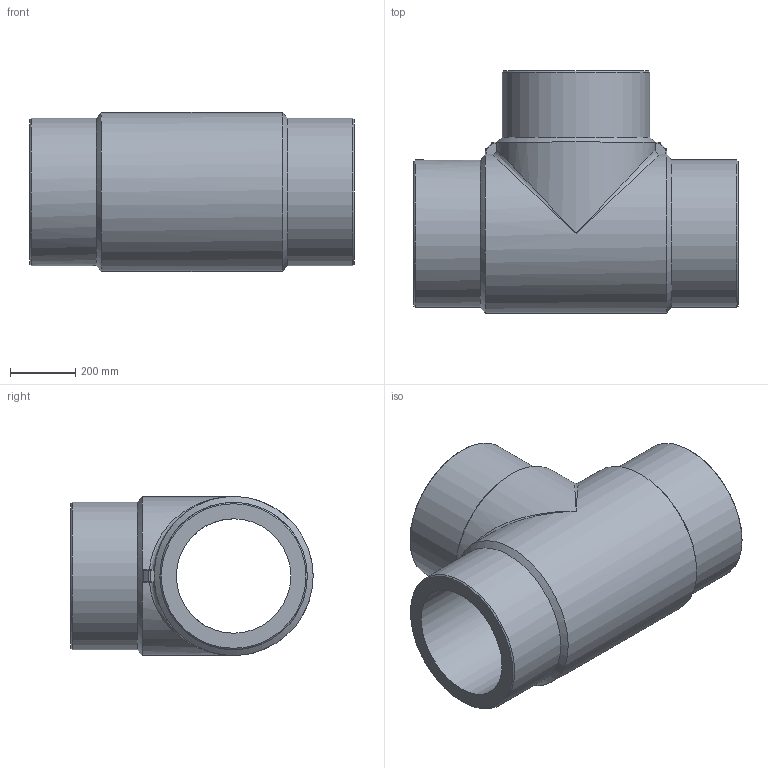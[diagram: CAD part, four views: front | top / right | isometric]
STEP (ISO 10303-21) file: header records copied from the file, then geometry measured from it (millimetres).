
FILE_DESCRIPTION(/* description */ ('Unknown'),/* implementation_level */ '2;1');
FILE_NAME(/* name */ 'TP450G',/* time_stamp */ '2022-06-06T17:02:13+02:00',/* author */ ('Unknown'),/* organization */ ('Unknown'),/* preprocessor_version */ 'ST-DEVELOPER v18.102',/* originating_system */ 'Solid Edge',/* authorisation */ 'Unknown');
FILE_SCHEMA (('AUTOMOTIVE_DESIGN {1 0 10303 214 3 1 1}'));
Length unit declared in the file: millimetre
Products named in the file (1): TP450G
Bounding box: 990 x 740 x 486 mm (x, y, z)
Volume: 92601857.3 mm3; surface area: 3331546.9 mm2
Topology: 1 solids, 1 shells, 55 faces, 136 edges, 78 vertices
Faces by surface type: cylinder 24, plane 13, torus 8, cone 6, bspline 4
Full cylindrical faces by diameter (mm): 349.4 x2, 450 x3
Entity records: 1668 total; most frequent: CARTESIAN_POINT 438, DIRECTION 268, ORIENTED_EDGE 228, EDGE_CURVE 114, AXIS2_PLACEMENT_3D 114, VERTEX_POINT 72, EDGE_LOOP 70, FACE_BOUND 70
